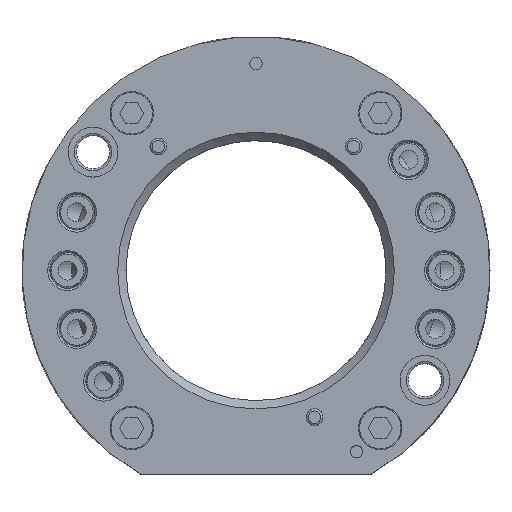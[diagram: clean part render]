
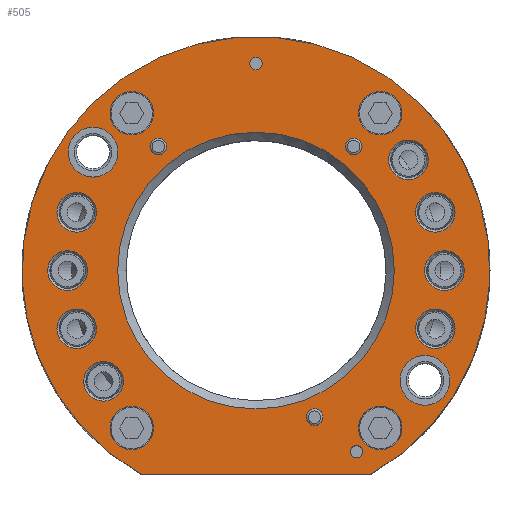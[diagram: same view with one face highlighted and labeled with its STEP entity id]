
A CAD part, top view. The second image highlights one B-rep face of the part: STEP entity #505.
In plain terms, the highlighted planar face has unit normal (0, 0, 1).
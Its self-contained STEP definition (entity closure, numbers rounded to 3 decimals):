
#505=ADVANCED_FACE('',(#7039,#7040,#7041,#7042,#7043,#7044,#7045,#7046,
   #7047,#7048,#7049,#7050,#7051,#7052,#7053,#7054,#7055,#7056,#7057,
   #7058,#7059),#7268,.F.);
#6914=VERTEX_POINT('',#6915);
#6915=CARTESIAN_POINT('',(-27.654,-49.27,36.));
#6916=EDGE_CURVE('',#6914,#6922,#6917,.T.);
#6917=CIRCLE('',#6918,56.5);
#6918=AXIS2_PLACEMENT_3D('',#6919,#6920,#6921);
#6919=CARTESIAN_POINT('',(0.,0.,36.));
#6920=DIRECTION('',(0.,0.,-1.));
#6921=DIRECTION('',(1.,0.,0.));
#6922=VERTEX_POINT('',#6923);
#6923=CARTESIAN_POINT('',(27.654,-49.27,36.));
#7039=FACE_OUTER_BOUND('',#7060,.T.);
#7040=FACE_BOUND('',#7061,.T.);
#7041=FACE_BOUND('',#7062,.T.);
#7042=FACE_BOUND('',#7063,.T.);
#7043=FACE_BOUND('',#7064,.T.);
#7044=FACE_BOUND('',#7065,.T.);
#7045=FACE_BOUND('',#7066,.T.);
#7046=FACE_BOUND('',#7067,.T.);
#7047=FACE_BOUND('',#7068,.T.);
#7048=FACE_BOUND('',#7069,.T.);
#7049=FACE_BOUND('',#7070,.T.);
#7050=FACE_BOUND('',#7071,.T.);
#7051=FACE_BOUND('',#7072,.T.);
#7052=FACE_BOUND('',#7073,.T.);
#7053=FACE_BOUND('',#7074,.T.);
#7054=FACE_BOUND('',#7075,.T.);
#7055=FACE_BOUND('',#7076,.T.);
#7056=FACE_BOUND('',#7077,.T.);
#7057=FACE_BOUND('',#7078,.T.);
#7058=FACE_BOUND('',#7079,.T.);
#7059=FACE_BOUND('',#7080,.T.);
#7060=EDGE_LOOP('',(#7081));
#7061=EDGE_LOOP('',(#7090));
#7062=EDGE_LOOP('',(#7099));
#7063=EDGE_LOOP('',(#7108));
#7064=EDGE_LOOP('',(#7117));
#7065=EDGE_LOOP('',(#7126));
#7066=EDGE_LOOP('',(#7135));
#7067=EDGE_LOOP('',(#7144));
#7068=EDGE_LOOP('',(#7153));
#7069=EDGE_LOOP('',(#7162));
#7070=EDGE_LOOP('',(#7171));
#7071=EDGE_LOOP('',(#7180));
#7072=EDGE_LOOP('',(#7189));
#7073=EDGE_LOOP('',(#7198));
#7074=EDGE_LOOP('',(#7207));
#7075=EDGE_LOOP('',(#7216));
#7076=EDGE_LOOP('',(#7225));
#7077=EDGE_LOOP('',(#7234));
#7078=EDGE_LOOP('',(#7243));
#7079=EDGE_LOOP('',(#7252));
#7080=EDGE_LOOP('',(#7261,#7262));
#7081=ORIENTED_EDGE('',*,*,#7082,.T.);
#7082=EDGE_CURVE('',#7088,#7088,#7083,.T.);
#7083=CIRCLE('',#7084,4.778);
#7084=AXIS2_PLACEMENT_3D('',#7085,#7086,#7087);
#7085=CARTESIAN_POINT('',(43.273,-14.06,
   36.));
#7086=DIRECTION('',(0.,0.,-1.));
#7087=DIRECTION('',(-1.,0.,0.));
#7088=VERTEX_POINT('',#7089);
#7089=CARTESIAN_POINT('',(38.496,-14.06,
   36.));
#7090=ORIENTED_EDGE('',*,*,#7091,.T.);
#7091=EDGE_CURVE('',#7097,#7097,#7092,.T.);
#7092=CIRCLE('',#7093,4.778);
#7093=AXIS2_PLACEMENT_3D('',#7094,#7095,#7096);
#7094=CARTESIAN_POINT('',(45.5,0.,36.));
#7095=DIRECTION('',(0.,0.,-1.));
#7096=DIRECTION('',(-1.,0.,0.));
#7097=VERTEX_POINT('',#7098);
#7098=CARTESIAN_POINT('',(40.723,0.,36.));
#7099=ORIENTED_EDGE('',*,*,#7100,.T.);
#7100=EDGE_CURVE('',#7106,#7106,#7101,.T.);
#7101=CIRCLE('',#7102,4.778);
#7102=AXIS2_PLACEMENT_3D('',#7103,#7104,#7105);
#7103=CARTESIAN_POINT('',(43.273,14.06,
   36.));
#7104=DIRECTION('',(0.,0.,-1.));
#7105=DIRECTION('',(-1.,0.,0.));
#7106=VERTEX_POINT('',#7107);
#7107=CARTESIAN_POINT('',(38.496,14.06,
   36.));
#7108=ORIENTED_EDGE('',*,*,#7109,.T.);
#7109=EDGE_CURVE('',#7115,#7115,#7110,.T.);
#7110=CIRCLE('',#7111,4.778);
#7111=AXIS2_PLACEMENT_3D('',#7112,#7113,#7114);
#7112=CARTESIAN_POINT('',(36.81,26.744,
   36.));
#7113=DIRECTION('',(0.,0.,-1.));
#7114=DIRECTION('',(-1.,0.,0.));
#7115=VERTEX_POINT('',#7116);
#7116=CARTESIAN_POINT('',(32.033,26.744,
   36.));
#7117=ORIENTED_EDGE('',*,*,#7118,.T.);
#7118=EDGE_CURVE('',#7124,#7124,#7119,.T.);
#7119=CIRCLE('',#7120,4.778);
#7120=AXIS2_PLACEMENT_3D('',#7121,#7122,#7123);
#7121=CARTESIAN_POINT('',(-43.273,14.06,
   36.));
#7122=DIRECTION('',(0.,0.,-1.));
#7123=DIRECTION('',(-1.,0.,0.));
#7124=VERTEX_POINT('',#7125);
#7125=CARTESIAN_POINT('',(-48.051,14.06,
   36.));
#7126=ORIENTED_EDGE('',*,*,#7127,.T.);
#7127=EDGE_CURVE('',#7133,#7133,#7128,.T.);
#7128=CIRCLE('',#7129,4.778);
#7129=AXIS2_PLACEMENT_3D('',#7130,#7131,#7132);
#7130=CARTESIAN_POINT('',(-45.5,0.,36.));
#7131=DIRECTION('',(0.,0.,-1.));
#7132=DIRECTION('',(-1.,0.,0.));
#7133=VERTEX_POINT('',#7134);
#7134=CARTESIAN_POINT('',(-50.278,0.,36.));
#7135=ORIENTED_EDGE('',*,*,#7136,.T.);
#7136=EDGE_CURVE('',#7142,#7142,#7137,.T.);
#7137=CIRCLE('',#7138,4.778);
#7138=AXIS2_PLACEMENT_3D('',#7139,#7140,#7141);
#7139=CARTESIAN_POINT('',(-43.273,-14.06,
   36.));
#7140=DIRECTION('',(0.,0.,-1.));
#7141=DIRECTION('',(-1.,0.,0.));
#7142=VERTEX_POINT('',#7143);
#7143=CARTESIAN_POINT('',(-48.051,-14.06,
   36.));
#7144=ORIENTED_EDGE('',*,*,#7145,.T.);
#7145=EDGE_CURVE('',#7151,#7151,#7146,.T.);
#7146=CIRCLE('',#7147,4.778);
#7147=AXIS2_PLACEMENT_3D('',#7148,#7149,#7150);
#7148=CARTESIAN_POINT('',(-36.81,-26.744,
   36.));
#7149=DIRECTION('',(0.,0.,-1.));
#7150=DIRECTION('',(-1.,0.,0.));
#7151=VERTEX_POINT('',#7152);
#7152=CARTESIAN_POINT('',(-41.588,-26.744,
   36.));
#7153=ORIENTED_EDGE('',*,*,#7154,.T.);
#7154=EDGE_CURVE('',#7160,#7160,#7155,.T.);
#7155=CIRCLE('',#7156,1.5);
#7156=AXIS2_PLACEMENT_3D('',#7157,#7158,#7159);
#7157=CARTESIAN_POINT('',(0.,50.,36.));
#7158=DIRECTION('',(0.,0.,-1.));
#7159=DIRECTION('',(-1.,0.,0.));
#7160=VERTEX_POINT('',#7161);
#7161=CARTESIAN_POINT('',(-1.5,50.,36.));
#7162=ORIENTED_EDGE('',*,*,#7163,.T.);
#7163=EDGE_CURVE('',#7169,#7169,#7164,.T.);
#7164=CIRCLE('',#7165,1.5);
#7165=AXIS2_PLACEMENT_3D('',#7166,#7167,#7168);
#7166=CARTESIAN_POINT('',(24.24,-43.731,
   36.));
#7167=DIRECTION('',(0.,0.,-1.));
#7168=DIRECTION('',(-1.,0.,0.));
#7169=VERTEX_POINT('',#7170);
#7170=CARTESIAN_POINT('',(22.74,-43.731,
   36.));
#7171=ORIENTED_EDGE('',*,*,#7172,.T.);
#7172=EDGE_CURVE('',#7178,#7178,#7173,.T.);
#7173=CIRCLE('',#7174,6.02);
#7174=AXIS2_PLACEMENT_3D('',#7175,#7176,#7177);
#7175=CARTESIAN_POINT('',(40.79,-26.49,36.));
#7176=DIRECTION('',(0.,0.,-1.));
#7177=DIRECTION('',(0.,-1.,0.));
#7178=VERTEX_POINT('',#7179);
#7179=CARTESIAN_POINT('',(40.79,-32.51,36.));
#7180=ORIENTED_EDGE('',*,*,#7181,.T.);
#7181=EDGE_CURVE('',#7187,#7187,#7182,.T.);
#7182=CIRCLE('',#7183,6.02);
#7183=AXIS2_PLACEMENT_3D('',#7184,#7185,#7186);
#7184=CARTESIAN_POINT('',(-39.35,28.59,36.));
#7185=DIRECTION('',(0.,0.,-1.));
#7186=DIRECTION('',(0.,-1.,0.));
#7187=VERTEX_POINT('',#7188);
#7188=CARTESIAN_POINT('',(-39.35,22.57,36.));
#7189=ORIENTED_EDGE('',*,*,#7190,.T.);
#7190=EDGE_CURVE('',#7196,#7196,#7191,.T.);
#7191=CIRCLE('',#7192,5.25);
#7192=AXIS2_PLACEMENT_3D('',#7193,#7194,#7195);
#7193=CARTESIAN_POINT('',(-30.,-38.,36.));
#7194=DIRECTION('',(0.,0.,-1.));
#7195=DIRECTION('',(0.,-1.,0.));
#7196=VERTEX_POINT('',#7197);
#7197=CARTESIAN_POINT('',(-30.,-43.25,36.));
#7198=ORIENTED_EDGE('',*,*,#7199,.T.);
#7199=EDGE_CURVE('',#7205,#7205,#7200,.T.);
#7200=CIRCLE('',#7201,5.25);
#7201=AXIS2_PLACEMENT_3D('',#7202,#7203,#7204);
#7202=CARTESIAN_POINT('',(30.,-38.,36.));
#7203=DIRECTION('',(0.,0.,-1.));
#7204=DIRECTION('',(0.,-1.,0.));
#7205=VERTEX_POINT('',#7206);
#7206=CARTESIAN_POINT('',(30.,-43.25,36.));
#7207=ORIENTED_EDGE('',*,*,#7208,.T.);
#7208=EDGE_CURVE('',#7214,#7214,#7209,.T.);
#7209=CIRCLE('',#7210,5.25);
#7210=AXIS2_PLACEMENT_3D('',#7211,#7212,#7213);
#7211=CARTESIAN_POINT('',(30.,38.,36.));
#7212=DIRECTION('',(0.,0.,-1.));
#7213=DIRECTION('',(0.,-1.,0.));
#7214=VERTEX_POINT('',#7215);
#7215=CARTESIAN_POINT('',(30.,32.75,36.));
#7216=ORIENTED_EDGE('',*,*,#7217,.T.);
#7217=EDGE_CURVE('',#7223,#7223,#7218,.T.);
#7218=CIRCLE('',#7219,5.25);
#7219=AXIS2_PLACEMENT_3D('',#7220,#7221,#7222);
#7220=CARTESIAN_POINT('',(-30.,38.,36.));
#7221=DIRECTION('',(0.,0.,-1.));
#7222=DIRECTION('',(0.,-1.,0.));
#7223=VERTEX_POINT('',#7224);
#7224=CARTESIAN_POINT('',(-30.,32.75,36.));
#7225=ORIENTED_EDGE('',*,*,#7226,.T.);
#7226=EDGE_CURVE('',#7232,#7232,#7227,.T.);
#7227=CIRCLE('',#7228,2.025);
#7228=AXIS2_PLACEMENT_3D('',#7229,#7230,#7231);
#7229=CARTESIAN_POINT('',(-23.58,29.96,36.));
#7230=DIRECTION('',(0.,0.,-1.));
#7231=DIRECTION('',(0.,-1.,0.));
#7232=VERTEX_POINT('',#7233);
#7233=CARTESIAN_POINT('',(-23.58,27.935,36.));
#7234=ORIENTED_EDGE('',*,*,#7235,.T.);
#7235=EDGE_CURVE('',#7241,#7241,#7236,.T.);
#7236=CIRCLE('',#7237,2.025);
#7237=AXIS2_PLACEMENT_3D('',#7238,#7239,#7240);
#7238=CARTESIAN_POINT('',(23.58,29.96,36.));
#7239=DIRECTION('',(0.,0.,-1.));
#7240=DIRECTION('',(0.,-1.,0.));
#7241=VERTEX_POINT('',#7242);
#7242=CARTESIAN_POINT('',(23.58,27.935,36.));
#7243=ORIENTED_EDGE('',*,*,#7244,.T.);
#7244=EDGE_CURVE('',#7250,#7250,#7245,.T.);
#7245=CIRCLE('',#7246,2.025);
#7246=AXIS2_PLACEMENT_3D('',#7247,#7248,#7249);
#7247=CARTESIAN_POINT('',(14.15,-35.4,36.));
#7248=DIRECTION('',(0.,0.,-1.));
#7249=DIRECTION('',(0.,-1.,0.));
#7250=VERTEX_POINT('',#7251);
#7251=CARTESIAN_POINT('',(14.15,-37.425,36.));
#7252=ORIENTED_EDGE('',*,*,#7253,.T.);
#7253=EDGE_CURVE('',#7259,#7259,#7254,.T.);
#7254=CIRCLE('',#7255,33.4);
#7255=AXIS2_PLACEMENT_3D('',#7256,#7257,#7258);
#7256=CARTESIAN_POINT('',(0.,0.,36.));
#7257=DIRECTION('',(0.,0.,-1.));
#7258=DIRECTION('',(-1.,0.,0.));
#7259=VERTEX_POINT('',#7260);
#7260=CARTESIAN_POINT('',(-33.4,0.,36.));
#7261=ORIENTED_EDGE('',*,*,#7263,.T.);
#7262=ORIENTED_EDGE('',*,*,#6916,.F.);
#7263=EDGE_CURVE('',#6914,#6922,#7264,.T.);
#7264=LINE('',#7265,#7266);
#7265=CARTESIAN_POINT('',(-27.654,-49.27,36.));
#7266=VECTOR('',#7267,1.);
#7267=DIRECTION('',(1.,0.,0.));
#7268=PLANE('',#7269);
#7269=AXIS2_PLACEMENT_3D('',#7270,#7271,#7272);
#7270=CARTESIAN_POINT('',(0.,0.,36.));
#7271=DIRECTION('',(0.,0.,-1.));
#7272=DIRECTION('',(-1.,0.,0.));
